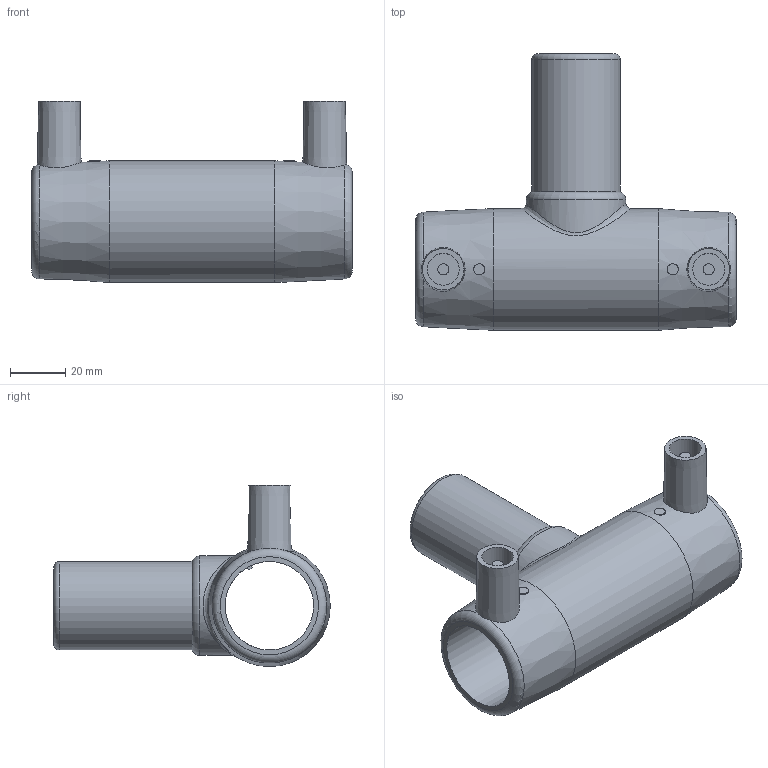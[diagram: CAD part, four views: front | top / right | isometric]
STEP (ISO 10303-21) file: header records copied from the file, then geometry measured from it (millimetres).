
FILE_DESCRIPTION(/* description */ ('Unknown'),/* implementation_level */ '2;1');
FILE_NAME(/* name */ 'TEP032C',/* time_stamp */ '2021-04-02T10:04:07+02:00',/* author */ ('Unknown'),/* organization */ ('Unknown'),/* preprocessor_version */ 'ST-DEVELOPER v16.7',/* originating_system */ 'Solid Edge',/* authorisation */ 'Unknown');
FILE_SCHEMA (('AUTOMOTIVE_DESIGN {1 0 10303 214 3 1 1}'));
Length unit declared in the file: millimetre
Products named in the file (1): TEP032C
Bounding box: 116 x 100 x 65.5 mm (x, y, z)
Volume: 97567 mm3; surface area: 41871.3 mm2
Topology: 1 solids, 1 shells, 36 faces, 77 edges, 50 vertices
Faces by surface type: plane 16, cylinder 11, torus 4, cone 4, bspline 1
Full cylindrical faces by diameter (mm): 4 x4, 11.5 x2, 26 x1, 32 x2, 36 x1, 44 x1
Entity records: 1074 total; most frequent: CARTESIAN_POINT 400, DIRECTION 136, ORIENTED_EDGE 92, EDGE_LOOP 68, FACE_BOUND 68, AXIS2_PLACEMENT_3D 63, EDGE_CURVE 46, VERTEX_POINT 40
